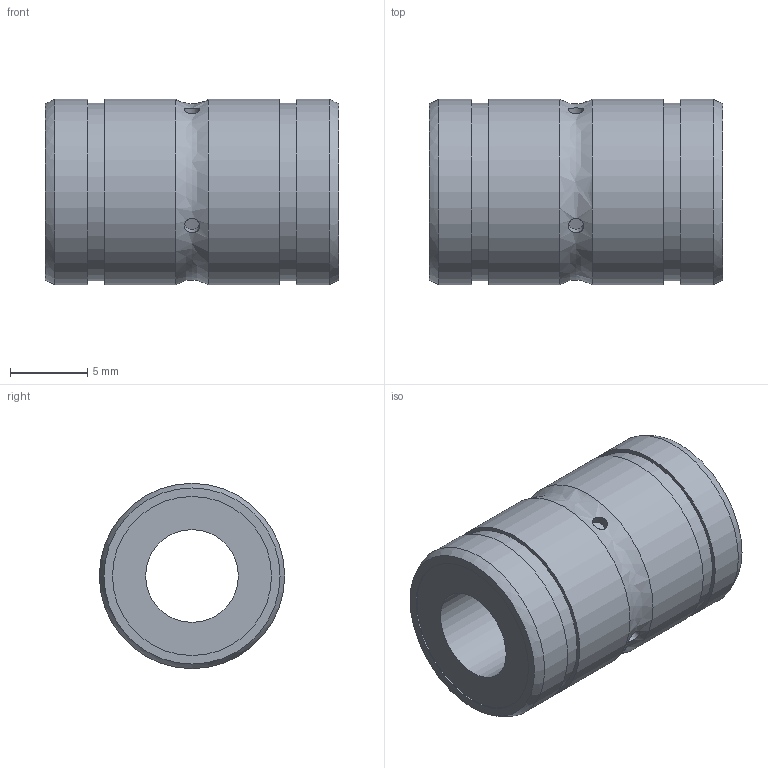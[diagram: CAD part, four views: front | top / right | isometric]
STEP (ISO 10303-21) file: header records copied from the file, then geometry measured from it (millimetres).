
FILE_DESCRIPTION((''),'2;1');
FILE_NAME('D:\製品 (図面)\カタログ用3D\リニアベアリング関連\STEP形式\L-OH\L6-OH.stp','2010-06-04T09:28:32',('Tsuchiya'),(''),'Autodesk Inventor 10','Autodesk Inventor 10','');
FILE_SCHEMA(('AUTOMOTIVE_DESIGN { 1 0 10303 214 1 1 1 1 }'));
Length unit declared in the file: millimetre
Products named in the file (1): L6-OH
Bounding box: 19 x 12 x 12 mm (x, y, z)
Volume: 1556.2 mm3; surface area: 1270.9 mm2
Topology: 1 solids, 1 shells, 28 faces, 48 edges, 32 vertices
Faces by surface type: cylinder 13, plane 8, bspline 7
Full cylindrical faces by diameter (mm): 6 x1, 10.3 x2, 11.5 x2, 12 x4
Entity records: 1033 total; most frequent: CARTESIAN_POINT 579, DIRECTION 84, ORIENTED_EDGE 56, EDGE_LOOP 56, AXIS2_PLACEMENT_3D 42, VERTEX_POINT 28, EDGE_CURVE 28, FACE_OUTER_BOUND 28
